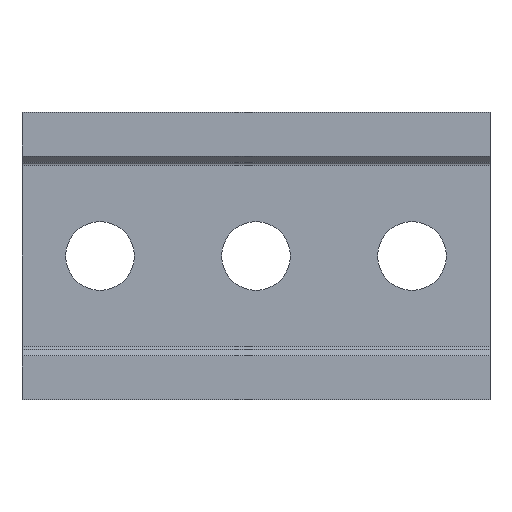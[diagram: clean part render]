
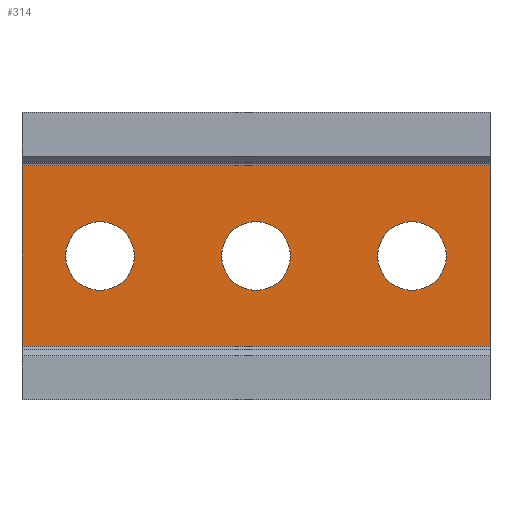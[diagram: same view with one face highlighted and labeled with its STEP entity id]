
A CAD part, front view. The second image highlights one B-rep face of the part: STEP entity #314.
In plain terms, the highlighted planar face has unit normal (0, -1, 0).
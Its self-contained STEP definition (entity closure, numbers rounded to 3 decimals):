
#12 = ORIENTED_EDGE ( 'NONE', *, *, #930, .T. ) ;
#23 = CIRCLE ( 'NONE', #890, 5.5 ) ;
#29 = DIRECTION ( 'NONE',  ( 0., 1., 0. ) ) ;
#43 = VERTEX_POINT ( 'NONE', #310 ) ;
#51 = EDGE_CURVE ( 'NONE', #758, #896, #531, .T. ) ;
#75 = CARTESIAN_POINT ( 'NONE',  ( 25., -10., 0. ) ) ;
#79 = DIRECTION ( 'NONE',  ( -1., 0., 0. ) ) ;
#91 = VERTEX_POINT ( 'NONE', #614 ) ;
#97 = VERTEX_POINT ( 'NONE', #630 ) ;
#102 = VERTEX_POINT ( 'NONE', #866 ) ;
#106 = CIRCLE ( 'NONE', #939, 5.5 ) ;
#122 = CIRCLE ( 'NONE', #490, 5.5 ) ;
#130 = CARTESIAN_POINT ( 'NONE',  ( 25., -10., 5.5 ) ) ;
#134 = VECTOR ( 'NONE', #79, 1000. ) ;
#139 = EDGE_CURVE ( 'NONE', #260, #885, #748, .T. ) ;
#143 = DIRECTION ( 'NONE',  ( 0., 0., -1. ) ) ;
#144 = ORIENTED_EDGE ( 'NONE', *, *, #719, .T. ) ;
#146 = VECTOR ( 'NONE', #393, 1000. ) ;
#150 = EDGE_LOOP ( 'NONE', ( #144, #689 ) ) ;
#166 = LINE ( 'NONE', #741, #134 ) ;
#175 = ORIENTED_EDGE ( 'NONE', *, *, #806, .F. ) ;
#187 = DIRECTION ( 'NONE',  ( 0., 0., 1. ) ) ;
#217 = ORIENTED_EDGE ( 'NONE', *, *, #882, .T. ) ;
#255 = AXIS2_PLACEMENT_3D ( 'NONE', #419, #848, #697 ) ;
#256 = AXIS2_PLACEMENT_3D ( 'NONE', #943, #868, #872 ) ;
#260 = VERTEX_POINT ( 'NONE', #749 ) ;
#265 = DIRECTION ( 'NONE',  ( 0., 0., 1. ) ) ;
#268 = EDGE_LOOP ( 'NONE', ( #12, #447, #175, #948 ) ) ;
#269 = FACE_BOUND ( 'NONE', #333, .T. ) ;
#302 = DIRECTION ( 'NONE',  ( 0., 0., 1. ) ) ;
#310 = CARTESIAN_POINT ( 'NONE',  ( -37.5, -10., 14.5 ) ) ;
#312 = EDGE_LOOP ( 'NONE', ( #217, #621 ) ) ;
#314 = ADVANCED_FACE ( 'NONE', ( #935, #269, #330, #474 ), #787, .F. ) ;
#323 = DIRECTION ( 'NONE',  ( 0., 0., 1. ) ) ;
#325 = CARTESIAN_POINT ( 'NONE',  ( 0., -10., -5.5 ) ) ;
#326 = EDGE_CURVE ( 'NONE', #97, #962, #106, .T. ) ;
#330 = FACE_OUTER_BOUND ( 'NONE', #268, .T. ) ;
#333 = EDGE_LOOP ( 'NONE', ( #564, #651 ) ) ;
#348 = VERTEX_POINT ( 'NONE', #325 ) ;
#362 = DIRECTION ( 'NONE',  ( 0., 1., 0. ) ) ;
#393 = DIRECTION ( 'NONE',  ( 0., 0., -1. ) ) ;
#414 = AXIS2_PLACEMENT_3D ( 'NONE', #553, #852, #265 ) ;
#419 = CARTESIAN_POINT ( 'NONE',  ( -25., -10., 0. ) ) ;
#424 = CARTESIAN_POINT ( 'NONE',  ( -25., -10., 0. ) ) ;
#447 = ORIENTED_EDGE ( 'NONE', *, *, #51, .T. ) ;
#474 = FACE_BOUND ( 'NONE', #312, .T. ) ;
#477 = DIRECTION ( 'NONE',  ( 0., 1., 0. ) ) ;
#490 = AXIS2_PLACEMENT_3D ( 'NONE', #75, #362, #302 ) ;
#496 = CARTESIAN_POINT ( 'NONE',  ( -37.5, -10., -14.5 ) ) ;
#523 = CIRCLE ( 'NONE', #796, 5.5 ) ;
#529 = EDGE_CURVE ( 'NONE', #348, #102, #905, .T. ) ;
#531 = LINE ( 'NONE', #534, #951 ) ;
#534 = CARTESIAN_POINT ( 'NONE',  ( 37.5, -10., -14.5 ) ) ;
#544 = EDGE_CURVE ( 'NONE', #885, #260, #523, .T. ) ;
#553 = CARTESIAN_POINT ( 'NONE',  ( 37.5, -10., -15. ) ) ;
#564 = ORIENTED_EDGE ( 'NONE', *, *, #139, .T. ) ;
#581 = DIRECTION ( 'NONE',  ( 0., 1., 0. ) ) ;
#588 = CARTESIAN_POINT ( 'NONE',  ( -37.5, -10., -15. ) ) ;
#604 = EDGE_CURVE ( 'NONE', #91, #43, #166, .T. ) ;
#614 = CARTESIAN_POINT ( 'NONE',  ( 37.5, -10., 14.5 ) ) ;
#616 = CARTESIAN_POINT ( 'NONE',  ( 0., -10., 0. ) ) ;
#621 = ORIENTED_EDGE ( 'NONE', *, *, #326, .T. ) ;
#630 = CARTESIAN_POINT ( 'NONE',  ( 25., -10., -5.5 ) ) ;
#651 = ORIENTED_EDGE ( 'NONE', *, *, #544, .T. ) ;
#676 = VECTOR ( 'NONE', #143, 1000. ) ;
#689 = ORIENTED_EDGE ( 'NONE', *, *, #529, .T. ) ;
#697 = DIRECTION ( 'NONE',  ( 0., 0., 1. ) ) ;
#719 = EDGE_CURVE ( 'NONE', #102, #348, #23, .T. ) ;
#721 = LINE ( 'NONE', #588, #676 ) ;
#724 = DIRECTION ( 'NONE',  ( 0., 0., 1. ) ) ;
#741 = CARTESIAN_POINT ( 'NONE',  ( -37.5, -10., 14.5 ) ) ;
#748 = CIRCLE ( 'NONE', #255, 5.5 ) ;
#749 = CARTESIAN_POINT ( 'NONE',  ( -25., -10., 5.5 ) ) ;
#758 = VERTEX_POINT ( 'NONE', #496 ) ;
#760 = LINE ( 'NONE', #941, #146 ) ;
#787 = PLANE ( 'NONE',  #414 ) ;
#796 = AXIS2_PLACEMENT_3D ( 'NONE', #424, #581, #724 ) ;
#806 = EDGE_CURVE ( 'NONE', #91, #896, #760, .T. ) ;
#832 = DIRECTION ( 'NONE',  ( 1., 0., 0. ) ) ;
#848 = DIRECTION ( 'NONE',  ( 0., 1., 0. ) ) ;
#852 = DIRECTION ( 'NONE',  ( 0., 1., 0. ) ) ;
#856 = CARTESIAN_POINT ( 'NONE',  ( 25., -10., 0. ) ) ;
#866 = CARTESIAN_POINT ( 'NONE',  ( 0., -10., 5.5 ) ) ;
#868 = DIRECTION ( 'NONE',  ( 0., 1., 0. ) ) ;
#872 = DIRECTION ( 'NONE',  ( 0., 0., 1. ) ) ;
#882 = EDGE_CURVE ( 'NONE', #962, #97, #122, .T. ) ;
#885 = VERTEX_POINT ( 'NONE', #887 ) ;
#887 = CARTESIAN_POINT ( 'NONE',  ( -25., -10., -5.5 ) ) ;
#890 = AXIS2_PLACEMENT_3D ( 'NONE', #616, #477, #323 ) ;
#896 = VERTEX_POINT ( 'NONE', #952 ) ;
#905 = CIRCLE ( 'NONE', #256, 5.5 ) ;
#930 = EDGE_CURVE ( 'NONE', #43, #758, #721, .T. ) ;
#935 = FACE_BOUND ( 'NONE', #150, .T. ) ;
#939 = AXIS2_PLACEMENT_3D ( 'NONE', #856, #29, #187 ) ;
#941 = CARTESIAN_POINT ( 'NONE',  ( 37.5, -10., -15. ) ) ;
#943 = CARTESIAN_POINT ( 'NONE',  ( 0., -10., 0. ) ) ;
#948 = ORIENTED_EDGE ( 'NONE', *, *, #604, .T. ) ;
#951 = VECTOR ( 'NONE', #832, 1000. ) ;
#952 = CARTESIAN_POINT ( 'NONE',  ( 37.5, -10., -14.5 ) ) ;
#962 = VERTEX_POINT ( 'NONE', #130 ) ;
